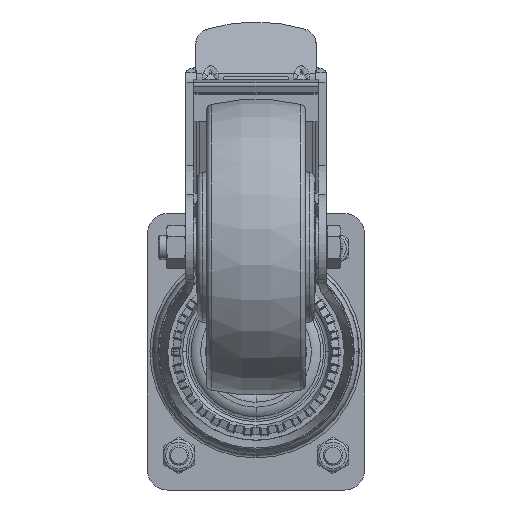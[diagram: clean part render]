
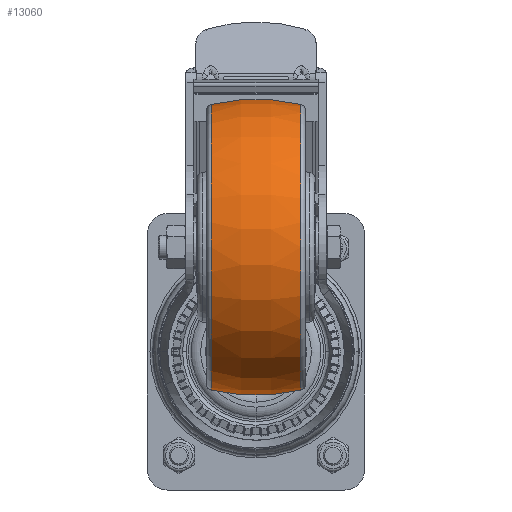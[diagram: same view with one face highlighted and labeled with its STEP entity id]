
A CAD part, front view. The second image highlights one B-rep face of the part: STEP entity #13060.
In plain terms, the highlighted toroidal (fillet/blend) face has major radius 25 mm and minor radius 100 mm.
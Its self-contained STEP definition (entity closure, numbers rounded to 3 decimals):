
#1070 = ORIENTED_EDGE ( 'NONE', *, *, #15567, .T. ) ;
#1533 = CARTESIAN_POINT ( 'NONE',  ( -158.874, -329.115, -19.394 ) ) ;
#1801 = DIRECTION ( 'NONE',  ( -1., 0., 0. ) ) ;
#2192 = VERTEX_POINT ( 'NONE', #1533 ) ;
#3293 = EDGE_CURVE ( 'NONE', #39824, #2192, #44129, .T. ) ;
#3625 = CARTESIAN_POINT ( 'NONE',  ( -136.194, -329.115, 78. ) ) ;
#3663 = DIRECTION ( 'NONE',  ( 0., -1., 0. ) ) ;
#7271 = CIRCLE ( 'NONE', #13768, 72.394 ) ;
#11017 = ORIENTED_EDGE ( 'NONE', *, *, #3293, .F. ) ;
#11326 = DIRECTION ( 'NONE',  ( 0., 0., -1. ) ) ;
#12978 = CIRCLE ( 'NONE', #32492, 100. ) ;
#13060 = ADVANCED_FACE ( 'NONE', ( #46190 ), #30745, .T. ) ;
#13768 = AXIS2_PLACEMENT_3D ( 'NONE', #36670, #1801, #24970 ) ;
#14502 = AXIS2_PLACEMENT_3D ( 'NONE', #26084, #34717, #41598 ) ;
#14679 = CARTESIAN_POINT ( 'NONE',  ( -113.513, -329.115, 53. ) ) ;
#15236 = ORIENTED_EDGE ( 'NONE', *, *, #22984, .F. ) ;
#15567 = EDGE_CURVE ( 'NONE', #39824, #24367, #41323, .T. ) ;
#16224 = CARTESIAN_POINT ( 'NONE',  ( -113.513, -329.115, 125.394 ) ) ;
#18717 = CARTESIAN_POINT ( 'NONE',  ( -136.194, -329.115, 28. ) ) ;
#22984 = EDGE_CURVE ( 'NONE', #2192, #36493, #7271, .T. ) ;
#22987 = DIRECTION ( 'NONE',  ( 0., 1., 0. ) ) ;
#24260 = AXIS2_PLACEMENT_3D ( 'NONE', #14679, #46220, #33749 ) ;
#24367 = VERTEX_POINT ( 'NONE', #16224 ) ;
#24970 = DIRECTION ( 'NONE',  ( 0., 0., 1. ) ) ;
#26084 = CARTESIAN_POINT ( 'NONE',  ( -136.194, -329.115, 53. ) ) ;
#27278 = DIRECTION ( 'NONE',  ( 0., 0., 1. ) ) ;
#30745 = TOROIDAL_SURFACE ( 'NONE', #14502, -25., 100. ) ;
#32492 = AXIS2_PLACEMENT_3D ( 'NONE', #18717, #3663, #11326 ) ;
#33572 = AXIS2_PLACEMENT_3D ( 'NONE', #3625, #22987, #27278 ) ;
#33749 = DIRECTION ( 'NONE',  ( 0., 0., 1. ) ) ;
#34717 = DIRECTION ( 'NONE',  ( -1., 0., 0. ) ) ;
#36493 = VERTEX_POINT ( 'NONE', #49729 ) ;
#36670 = CARTESIAN_POINT ( 'NONE',  ( -158.874, -329.115, 53. ) ) ;
#37471 = EDGE_LOOP ( 'NONE', ( #11017, #1070, #40316, #15236 ) ) ;
#38545 = EDGE_CURVE ( 'NONE', #24367, #36493, #12978, .T. ) ;
#39657 = CARTESIAN_POINT ( 'NONE',  ( -113.513, -329.115, -19.394 ) ) ;
#39824 = VERTEX_POINT ( 'NONE', #39657 ) ;
#40316 = ORIENTED_EDGE ( 'NONE', *, *, #38545, .T. ) ;
#41323 = CIRCLE ( 'NONE', #24260, 72.394 ) ;
#41598 = DIRECTION ( 'NONE',  ( 0., 0., -1. ) ) ;
#44129 = CIRCLE ( 'NONE', #33572, 100. ) ;
#46190 = FACE_OUTER_BOUND ( 'NONE', #37471, .T. ) ;
#46220 = DIRECTION ( 'NONE',  ( -1., 0., 0. ) ) ;
#49729 = CARTESIAN_POINT ( 'NONE',  ( -158.874, -329.115, 125.394 ) ) ;
